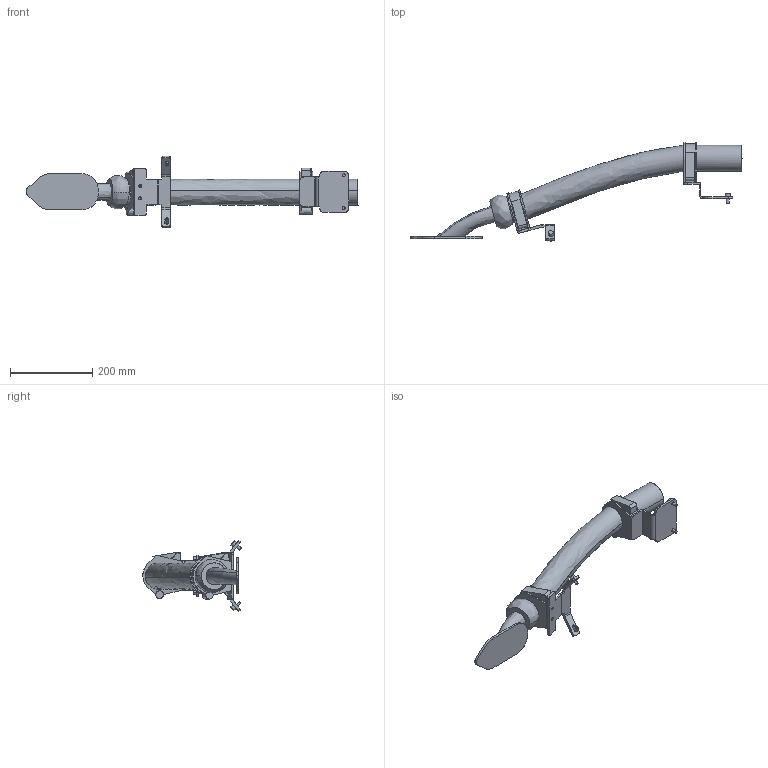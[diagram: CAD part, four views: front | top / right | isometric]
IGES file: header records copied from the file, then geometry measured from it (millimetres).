
Start section: SolidWorks IGES file using analytic representation for surfaces
Global section: file name: C:\DATA\SAP_DOC\LW\IRB 6730\IRB6730-MH3_270kg-270_OC_01_SW_J\Export\IRB6730-MH3_270kg-270_OC_01_IGES_J\IRB6730-MH3_270kg-270_OC_00_LINK04_CABLE.igs; native system: SolidWorks 2024; preprocessor: SolidWorks 2024; author: SEJOVAS3; date: 260526.113934; units: millimetre
Bounding box: 807.31 x 238.88 x 174.65 mm (x, y, z)
Surface area: 260051.5 mm2 (no closed solid volume)
Topology: 0 solids, 0 shells, 280 faces, 3821 edges, 3821 vertices
Faces by surface type: bspline 191, revolution 89
